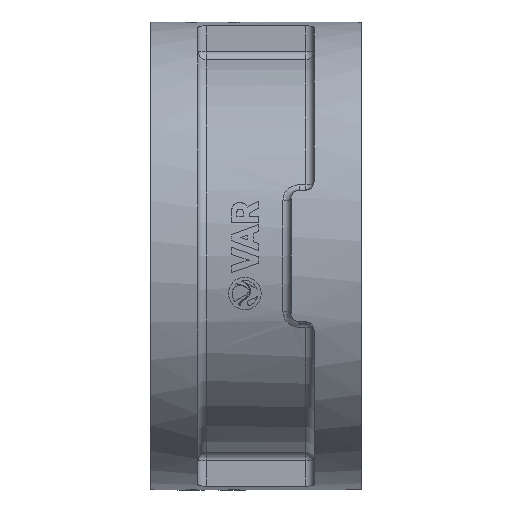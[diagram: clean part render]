
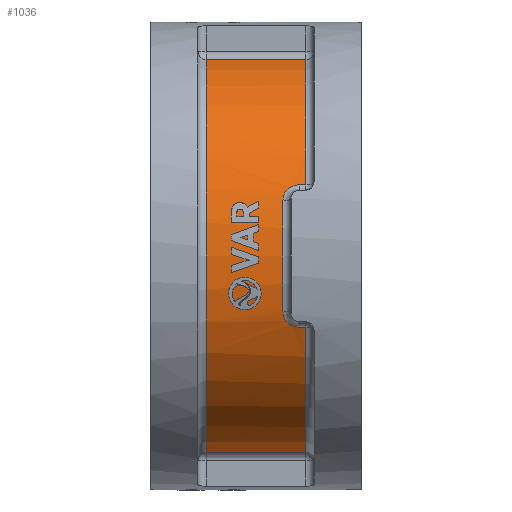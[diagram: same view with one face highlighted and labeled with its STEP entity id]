
A CAD part, left-side view. The second image highlights one B-rep face of the part: STEP entity #1036.
In plain terms, the highlighted cylindrical face has radius 61.4 mm (diameter 122.8 mm), a partial arc.
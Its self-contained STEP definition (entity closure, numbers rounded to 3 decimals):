
#1036=ADVANCED_FACE('',(#3765),#3767,.T.);
#3765=FACE_BOUND('',#3766,.T.);
#3766=EDGE_LOOP('',(#12790,#12791,#12792,#12793,#12794,#12795,#12796,#12797,#12798,
#12799));
#3767=CYLINDRICAL_SURFACE('',#3768,61.4);
#3768=AXIS2_PLACEMENT_3D('',#3769,#3770,#3771);
#3769=CARTESIAN_POINT('',(0.,14.4,0.));
#3770=DIRECTION('',(0.,1.,0.));
#3771=DIRECTION('',(-1.,0.,0.));
#12790=ORIENTED_EDGE('',*,*,#15538,.T.);
#12791=ORIENTED_EDGE('',*,*,#15539,.F.);
#12792=ORIENTED_EDGE('',*,*,#15540,.F.);
#12793=ORIENTED_EDGE('',*,*,#15541,.F.);
#12794=ORIENTED_EDGE('',*,*,#15542,.T.);
#12795=ORIENTED_EDGE('',*,*,#15543,.F.);
#12796=ORIENTED_EDGE('',*,*,#15544,.F.);
#12797=ORIENTED_EDGE('',*,*,#15545,.F.);
#12798=ORIENTED_EDGE('',*,*,#15546,.F.);
#12799=ORIENTED_EDGE('',*,*,#15547,.F.);
#15538=EDGE_CURVE('',#16662,#16663,#16664,.T.);
#15539=EDGE_CURVE('',#16665,#16663,#16666,.F.);
#15540=EDGE_CURVE('',#16667,#16665,#16668,.T.);
#15541=EDGE_CURVE('',#16669,#16667,#16670,.T.);
#15542=EDGE_CURVE('',#16669,#16671,#16672,.T.);
#15543=EDGE_CURVE('',#16673,#16671,#16674,.F.);
#15544=EDGE_CURVE('',#16675,#16673,#16676,.T.);
#15545=EDGE_CURVE('',#16677,#16675,#16678,.F.);
#15546=EDGE_CURVE('',#16679,#16677,#16680,.F.);
#15547=EDGE_CURVE('',#16662,#16679,#16681,.T.);
#16662=VERTEX_POINT('',#19791);
#16663=VERTEX_POINT('',#19792);
#16664=CIRCLE('',#19793,61.4);
#16665=VERTEX_POINT('',#19797);
#16666=LINE('',#19798,#19799);
#16667=VERTEX_POINT('',#19801);
#16668=CIRCLE('',#19802,61.4);
#16669=VERTEX_POINT('',#19806);
#16670=LINE('',#19807,#19808);
#16671=VERTEX_POINT('',#19810);
#16672=CIRCLE('',#19811,61.4);
#16673=VERTEX_POINT('',#19815);
#16674=LINE('',#19816,#19817);
#16675=VERTEX_POINT('',#19819);
#16676=B_SPLINE_CURVE_WITH_KNOTS('',3,
(#19820,#19821,#19822,#19823,#19824,#19825,#19826,#19827,#19828,#19829,#19830,#19831,
#19832,#19833,#19834,#19835,#19836,#19837,#19838,#19839,#19840,#19841,#19842,#19843,
#19844,#19845,#19846,#19847),
.UNSPECIFIED.,.F.,.F.,
(4,1,1,1,1,1,1,1,1,1,1,1,1,1,1,1,1,1,1,1,1,1,1,1,1,4),
(0.,0.012,0.026,0.041,0.055,
0.069,0.087,0.11,0.14,0.178,
0.214,0.248,0.277,0.305,0.335,
0.375,0.432,0.5,0.573,0.639,
0.703,0.766,0.825,0.882,0.939,
1.),
.UNSPECIFIED.);
#16677=VERTEX_POINT('',#19848);
#16678=CIRCLE('',#19849,61.4);
#16679=VERTEX_POINT('',#19853);
#16680=B_SPLINE_CURVE_WITH_KNOTS('',3,
(#19854,#19855,#19856,#19857,#19858,#19859,#19860,#19861,#19862,#19863,#19864,#19865,
#19866,#19867,#19868,#19869,#19870,#19871,#19872,#19873,#19874,#19875,#19876,#19877,
#19878,#19879,#19880,#19881),
.UNSPECIFIED.,.F.,.F.,
(4,1,1,1,1,1,1,1,1,1,1,1,1,1,1,1,1,1,1,1,1,1,1,1,1,4),
(0.,0.012,0.026,0.041,0.055,0.069,
0.087,0.11,0.14,0.178,0.214,
0.248,0.277,0.305,0.335,0.375,
0.432,0.5,0.573,0.639,0.703,
0.766,0.825,0.882,0.939,1.),
.UNSPECIFIED.);
#16681=LINE('',#19882,#19883);
#19791=CARTESIAN_POINT('',(-57.468,16.9,21.62));
#19792=CARTESIAN_POINT('',(-14.653,16.9,59.626));
#19793=AXIS2_PLACEMENT_3D('',#19794,#19795,#19796);
#19794=CARTESIAN_POINT('',(0.,16.9,0.));
#19795=DIRECTION('',(0.,1.,0.));
#19796=DIRECTION('',(-0.936,0.,0.352));
#19797=CARTESIAN_POINT('',(-14.653,47.1,59.626));
#19798=CARTESIAN_POINT('',(-14.653,16.9,59.626));
#19799=VECTOR('',#19800,1.);
#19800=DIRECTION('',(0.,1.,0.));
#19801=CARTESIAN_POINT('',(-14.653,47.1,-59.626));
#19802=AXIS2_PLACEMENT_3D('',#19803,#19804,#19805);
#19803=CARTESIAN_POINT('',(0.,47.1,0.));
#19804=DIRECTION('',(0.,1.,0.));
#19805=DIRECTION('',(-0.239,0.,-0.971));
#19806=CARTESIAN_POINT('',(-14.653,16.9,-59.626));
#19807=CARTESIAN_POINT('',(-14.653,16.9,-59.626));
#19808=VECTOR('',#19809,1.);
#19809=DIRECTION('',(0.,1.,0.));
#19810=CARTESIAN_POINT('',(-57.468,16.9,-21.62));
#19811=AXIS2_PLACEMENT_3D('',#19812,#19813,#19814);
#19812=CARTESIAN_POINT('',(0.,16.9,0.));
#19813=DIRECTION('',(0.,1.,0.));
#19814=DIRECTION('',(-0.239,0.,-0.971));
#19815=CARTESIAN_POINT('',(-57.468,18.833,-21.62));
#19816=CARTESIAN_POINT('',(-57.468,16.9,-21.62));
#19817=VECTOR('',#19818,1.);
#19818=DIRECTION('',(0.,1.,0.));
#19819=CARTESIAN_POINT('',(-59.053,23.833,-16.815));
#19820=CARTESIAN_POINT('',(-59.053,23.833,-16.815));
#19821=CARTESIAN_POINT('',(-59.044,23.832,-16.845));
#19822=CARTESIAN_POINT('',(-59.026,23.83,-16.909));
#19823=CARTESIAN_POINT('',(-58.997,23.827,-17.01));
#19824=CARTESIAN_POINT('',(-58.966,23.823,-17.116));
#19825=CARTESIAN_POINT('',(-58.935,23.816,-17.223));
#19826=CARTESIAN_POINT('',(-58.902,23.805,-17.334));
#19827=CARTESIAN_POINT('',(-58.863,23.788,-17.467));
#19828=CARTESIAN_POINT('',(-58.812,23.761,-17.639));
#19829=CARTESIAN_POINT('',(-58.745,23.716,-17.859));
#19830=CARTESIAN_POINT('',(-58.67,23.652,-18.107));
#19831=CARTESIAN_POINT('',(-58.591,23.571,-18.359));
#19832=CARTESIAN_POINT('',(-58.52,23.484,-18.585));
#19833=CARTESIAN_POINT('',(-58.455,23.394,-18.788));
#19834=CARTESIAN_POINT('',(-58.393,23.299,-18.98));
#19835=CARTESIAN_POINT('',(-58.324,23.182,-19.191));
#19836=CARTESIAN_POINT('',(-58.235,23.014,-19.459));
#19837=CARTESIAN_POINT('',(-58.124,22.77,-19.79));
#19838=CARTESIAN_POINT('',(-57.996,22.435,-20.161));
#19839=CARTESIAN_POINT('',(-57.872,22.041,-20.513));
#19840=CARTESIAN_POINT('',(-57.763,21.613,-20.819));
#19841=CARTESIAN_POINT('',(-57.671,21.172,-21.071));
#19842=CARTESIAN_POINT('',(-57.597,20.717,-21.274));
#19843=CARTESIAN_POINT('',(-57.54,20.26,-21.427));
#19844=CARTESIAN_POINT('',(-57.499,19.8,-21.536));
#19845=CARTESIAN_POINT('',(-57.474,19.326,-21.604));
#19846=CARTESIAN_POINT('',(-57.468,19.001,-21.62));
#19847=CARTESIAN_POINT('',(-57.468,18.833,-21.62));
#19848=CARTESIAN_POINT('',(-59.053,23.833,16.815));
#19849=AXIS2_PLACEMENT_3D('',#19850,#19851,#19852);
#19850=CARTESIAN_POINT('',(0.,23.833,0.));
#19851=DIRECTION('',(0.,1.,0.));
#19852=DIRECTION('',(-0.962,0.,-0.274));
#19853=CARTESIAN_POINT('',(-57.468,18.833,21.62));
#19854=CARTESIAN_POINT('',(-59.053,23.833,16.815));
#19855=CARTESIAN_POINT('',(-59.044,23.832,16.845));
#19856=CARTESIAN_POINT('',(-59.026,23.83,16.909));
#19857=CARTESIAN_POINT('',(-58.997,23.827,17.01));
#19858=CARTESIAN_POINT('',(-58.966,23.823,17.116));
#19859=CARTESIAN_POINT('',(-58.935,23.816,17.223));
#19860=CARTESIAN_POINT('',(-58.902,23.805,17.334));
#19861=CARTESIAN_POINT('',(-58.863,23.788,17.467));
#19862=CARTESIAN_POINT('',(-58.812,23.761,17.639));
#19863=CARTESIAN_POINT('',(-58.745,23.716,17.859));
#19864=CARTESIAN_POINT('',(-58.67,23.652,18.107));
#19865=CARTESIAN_POINT('',(-58.591,23.571,18.359));
#19866=CARTESIAN_POINT('',(-58.52,23.484,18.585));
#19867=CARTESIAN_POINT('',(-58.455,23.394,18.788));
#19868=CARTESIAN_POINT('',(-58.393,23.299,18.98));
#19869=CARTESIAN_POINT('',(-58.324,23.182,19.191));
#19870=CARTESIAN_POINT('',(-58.235,23.014,19.459));
#19871=CARTESIAN_POINT('',(-58.124,22.77,19.79));
#19872=CARTESIAN_POINT('',(-57.996,22.435,20.161));
#19873=CARTESIAN_POINT('',(-57.872,22.041,20.513));
#19874=CARTESIAN_POINT('',(-57.763,21.613,20.819));
#19875=CARTESIAN_POINT('',(-57.671,21.172,21.071));
#19876=CARTESIAN_POINT('',(-57.597,20.717,21.274));
#19877=CARTESIAN_POINT('',(-57.54,20.26,21.427));
#19878=CARTESIAN_POINT('',(-57.499,19.8,21.536));
#19879=CARTESIAN_POINT('',(-57.474,19.326,21.604));
#19880=CARTESIAN_POINT('',(-57.468,19.001,21.62));
#19881=CARTESIAN_POINT('',(-57.468,18.833,21.62));
#19882=CARTESIAN_POINT('',(-57.468,16.9,21.62));
#19883=VECTOR('',#19884,1.);
#19884=DIRECTION('',(0.,1.,0.));
